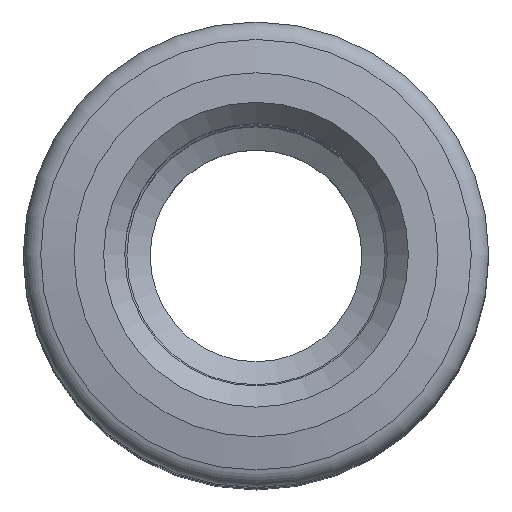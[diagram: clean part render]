
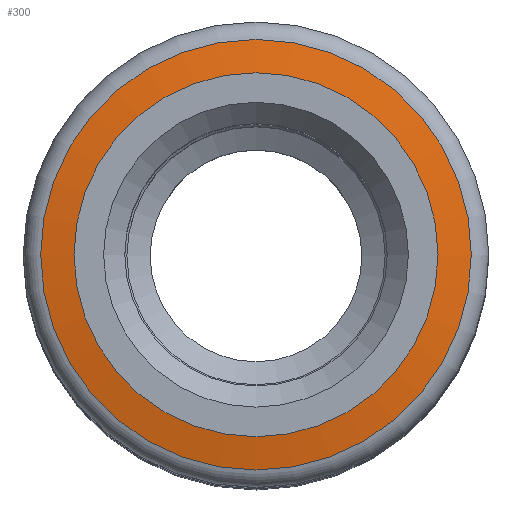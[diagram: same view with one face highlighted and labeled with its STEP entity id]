
A CAD part, top view. The second image highlights one B-rep face of the part: STEP entity #300.
In plain terms, the highlighted conical face has half-angle 80 degrees and reference radius 5.087 mm.
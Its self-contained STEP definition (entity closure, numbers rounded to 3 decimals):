
#300=ADVANCED_FACE('', (#310,#320), #330, .T.);
#2540=AXIS2_PLACEMENT_3D('Ax2Pl3d', #2550, #2560, #2570);
#2580=AXIS2_PLACEMENT_3D('Ax2Pl3d', #2590, #2600, #2610);
#2620=AXIS2_PLACEMENT_3D('Ax2Pl3d', #2630, #2640, #2650);
#2550=CARTESIAN_POINT('HicPkt', (5.709,12.808,
30.988));
#6470=CARTESIAN_POINT('', (10.796,12.808,30.988));
#2590=CARTESIAN_POINT('HicPkt', (5.709,12.808,
30.988));
#2630=CARTESIAN_POINT('HicPkt', (5.709,12.808,
31.127));
#6480=CARTESIAN_POINT('', (10.009,12.808,31.127));
#6970=CIRCLE('Circle', #2540, 5.087);
#6980=CIRCLE('Circle', #2620, 4.3);
#330=CONICAL_SURFACE('Kegel', #2580, 5.087, 1.396)
;
#2560=DIRECTION('Axis', (0.,0.,1.));
#2570=DIRECTION('RefDirection', (1.,0.,-0.));
#2600=DIRECTION('Axis', (0.,0.,-1.));
#2610=DIRECTION('RefDirection', (-1.,-0.,0.));
#2640=DIRECTION('Axis', (0.,0.,1.));
#2650=DIRECTION('RefDirection', (1.,0.,-0.));
#9160=EDGE_CURVE('', #9170, #9170, #6970, .T.);
#9180=EDGE_CURVE('', #9190, #9190, #6980, .T.);
#10240=EDGE_LOOP('Edge_loop', (#10250));
#10260=EDGE_LOOP('Edge_loop', (#10270));
#320=FACE_BOUND('', #10260, .T.);
#310=FACE_OUTER_BOUND('Face_outer_bound', #10240, .T.);
#10250=ORIENTED_EDGE('', *, *, #9160, .T.);
#10270=ORIENTED_EDGE('', *, *, #9180, .F.);
#9170=VERTEX_POINT('', #6470);
#9190=VERTEX_POINT('', #6480);
